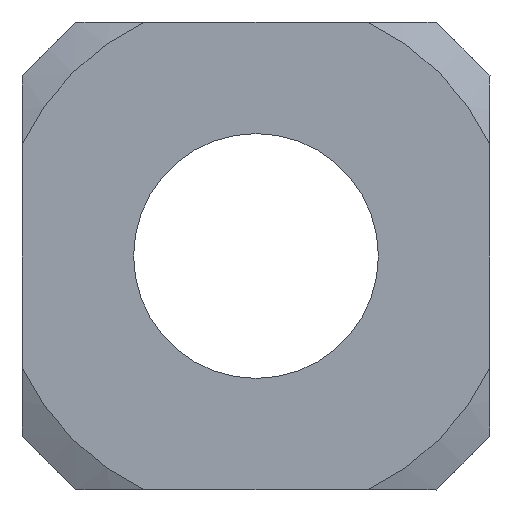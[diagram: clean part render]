
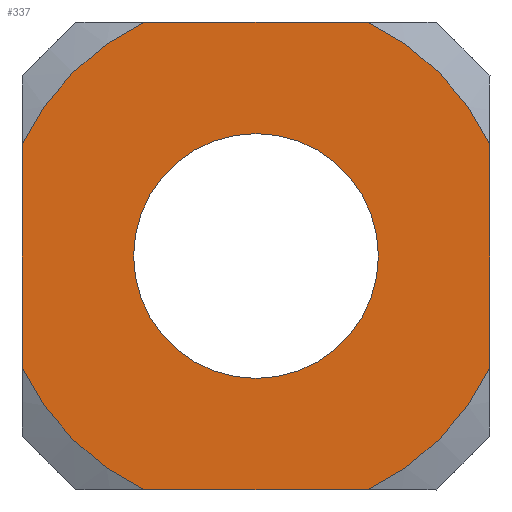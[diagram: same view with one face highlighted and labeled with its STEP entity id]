
A CAD part, front view. The second image highlights one B-rep face of the part: STEP entity #337.
In plain terms, the highlighted planar face has unit normal (0, -1, 0).
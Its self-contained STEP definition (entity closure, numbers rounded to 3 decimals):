
#2 = EDGE_LOOP ( 'NONE', ( #331, #158 ) ) ;
#3 = DIRECTION ( 'NONE',  ( 0., 0., 1. ) ) ;
#11 = DIRECTION ( 'NONE',  ( 0., 0., 1. ) ) ;
#44 = EDGE_CURVE ( 'NONE', #283, #60, #553, .T. ) ;
#47 = VERTEX_POINT ( 'NONE', #701 ) ;
#50 = ORIENTED_EDGE ( 'NONE', *, *, #573, .T. ) ;
#52 = PLANE ( 'NONE',  #505 ) ;
#60 = VERTEX_POINT ( 'NONE', #462 ) ;
#73 = CIRCLE ( 'NONE', #136, 7.2 ) ;
#74 = CARTESIAN_POINT ( 'NONE',  ( -3.097, 0., 6.5 ) ) ;
#75 = DIRECTION ( 'NONE',  ( 0., -1., 0. ) ) ;
#77 = CARTESIAN_POINT ( 'NONE',  ( 6.5, 0., 3.097 ) ) ;
#79 = DIRECTION ( 'NONE',  ( -1., 0., 0. ) ) ;
#81 = EDGE_CURVE ( 'NONE', #528, #240, #73, .T. ) ;
#85 = CARTESIAN_POINT ( 'NONE',  ( 3.097, 0., 6.5 ) ) ;
#98 = FACE_BOUND ( 'NONE', #2, .T. ) ;
#108 = DIRECTION ( 'NONE',  ( 0., -1., 0. ) ) ;
#115 = DIRECTION ( 'NONE',  ( 0., 1., 0. ) ) ;
#136 = AXIS2_PLACEMENT_3D ( 'NONE', #360, #75, #11 ) ;
#139 = CARTESIAN_POINT ( 'NONE',  ( 0., 0., 6.5 ) ) ;
#145 = LINE ( 'NONE', #261, #542 ) ;
#150 = VECTOR ( 'NONE', #255, 1000. ) ;
#158 = ORIENTED_EDGE ( 'NONE', *, *, #665, .T. ) ;
#160 = EDGE_LOOP ( 'NONE', ( #739, #555, #675, #50, #395, #688, #193, #230 ) ) ;
#188 = LINE ( 'NONE', #139, #371 ) ;
#190 = EDGE_CURVE ( 'NONE', #350, #524, #145, .T. ) ;
#193 = ORIENTED_EDGE ( 'NONE', *, *, #496, .T. ) ;
#204 = EDGE_CURVE ( 'NONE', #282, #528, #481, .T. ) ;
#230 = ORIENTED_EDGE ( 'NONE', *, *, #406, .T. ) ;
#231 = VERTEX_POINT ( 'NONE', #85 ) ;
#240 = VERTEX_POINT ( 'NONE', #364 ) ;
#242 = DIRECTION ( 'NONE',  ( 0., -1., 0. ) ) ;
#255 = DIRECTION ( 'NONE',  ( 0., 0., -1. ) ) ;
#261 = CARTESIAN_POINT ( 'NONE',  ( 6.5, 0., 0. ) ) ;
#272 = CARTESIAN_POINT ( 'NONE',  ( 0., 0., 0. ) ) ;
#282 = VERTEX_POINT ( 'NONE', #721 ) ;
#283 = VERTEX_POINT ( 'NONE', #604 ) ;
#285 = CARTESIAN_POINT ( 'NONE',  ( 0., 0., 0. ) ) ;
#318 = CIRCLE ( 'NONE', #340, 7.2 ) ;
#331 = ORIENTED_EDGE ( 'NONE', *, *, #44, .T. ) ;
#335 = CARTESIAN_POINT ( 'NONE',  ( 0., 0., 0. ) ) ;
#337 = ADVANCED_FACE ( 'NONE', ( #393, #98 ), #52, .T. ) ;
#340 = AXIS2_PLACEMENT_3D ( 'NONE', #402, #108, #412 ) ;
#350 = VERTEX_POINT ( 'NONE', #513 ) ;
#358 = DIRECTION ( 'NONE',  ( -1., 0., 0. ) ) ;
#360 = CARTESIAN_POINT ( 'NONE',  ( 0., 0., 0. ) ) ;
#364 = CARTESIAN_POINT ( 'NONE',  ( -3.097, 0., -6.5 ) ) ;
#371 = VECTOR ( 'NONE', #79, 1000. ) ;
#373 = CARTESIAN_POINT ( 'NONE',  ( -6.5, 0., 0. ) ) ;
#375 = CIRCLE ( 'NONE', #509, 7.2 ) ;
#390 = VERTEX_POINT ( 'NONE', #74 ) ;
#393 = FACE_OUTER_BOUND ( 'NONE', #160, .T. ) ;
#395 = ORIENTED_EDGE ( 'NONE', *, *, #190, .T. ) ;
#402 = CARTESIAN_POINT ( 'NONE',  ( 0., 0., 0. ) ) ;
#404 = CARTESIAN_POINT ( 'NONE',  ( 0., 0., 0. ) ) ;
#406 = EDGE_CURVE ( 'NONE', #390, #282, #581, .T. ) ;
#412 = DIRECTION ( 'NONE',  ( 0., 0., 1. ) ) ;
#434 = DIRECTION ( 'NONE',  ( 1., 0., 0. ) ) ;
#453 = CARTESIAN_POINT ( 'NONE',  ( 0., 0., 0. ) ) ;
#462 = CARTESIAN_POINT ( 'NONE',  ( 0., 0., -3.4 ) ) ;
#475 = AXIS2_PLACEMENT_3D ( 'NONE', #285, #585, #3 ) ;
#481 = LINE ( 'NONE', #373, #150 ) ;
#486 = LINE ( 'NONE', #726, #743 ) ;
#492 = AXIS2_PLACEMENT_3D ( 'NONE', #453, #115, #594 ) ;
#496 = EDGE_CURVE ( 'NONE', #231, #390, #188, .T. ) ;
#505 = AXIS2_PLACEMENT_3D ( 'NONE', #335, #733, #613 ) ;
#509 = AXIS2_PLACEMENT_3D ( 'NONE', #272, #670, #566 ) ;
#513 = CARTESIAN_POINT ( 'NONE',  ( 6.5, 0., -3.097 ) ) ;
#524 = VERTEX_POINT ( 'NONE', #77 ) ;
#528 = VERTEX_POINT ( 'NONE', #745 ) ;
#542 = VECTOR ( 'NONE', #548, 1000. ) ;
#543 = AXIS2_PLACEMENT_3D ( 'NONE', #404, #242, #358 ) ;
#548 = DIRECTION ( 'NONE',  ( 0., 0., 1. ) ) ;
#553 = CIRCLE ( 'NONE', #492, 3.4 ) ;
#555 = ORIENTED_EDGE ( 'NONE', *, *, #81, .T. ) ;
#566 = DIRECTION ( 'NONE',  ( 0., 0., 1. ) ) ;
#573 = EDGE_CURVE ( 'NONE', #47, #350, #375, .T. ) ;
#581 = CIRCLE ( 'NONE', #543, 7.2 ) ;
#585 = DIRECTION ( 'NONE',  ( 0., 1., 0. ) ) ;
#594 = DIRECTION ( 'NONE',  ( 0., 0., 1. ) ) ;
#604 = CARTESIAN_POINT ( 'NONE',  ( 0., 0., 3.4 ) ) ;
#613 = DIRECTION ( 'NONE',  ( 0., 0., -1. ) ) ;
#665 = EDGE_CURVE ( 'NONE', #60, #283, #720, .T. ) ;
#670 = DIRECTION ( 'NONE',  ( 0., -1., 0. ) ) ;
#675 = ORIENTED_EDGE ( 'NONE', *, *, #749, .T. ) ;
#688 = ORIENTED_EDGE ( 'NONE', *, *, #734, .T. ) ;
#701 = CARTESIAN_POINT ( 'NONE',  ( 3.097, 0., -6.5 ) ) ;
#720 = CIRCLE ( 'NONE', #475, 3.4 ) ;
#721 = CARTESIAN_POINT ( 'NONE',  ( -6.5, 0., 3.097 ) ) ;
#726 = CARTESIAN_POINT ( 'NONE',  ( 0., 0., -6.5 ) ) ;
#733 = DIRECTION ( 'NONE',  ( 0., -1., 0. ) ) ;
#734 = EDGE_CURVE ( 'NONE', #524, #231, #318, .T. ) ;
#739 = ORIENTED_EDGE ( 'NONE', *, *, #204, .T. ) ;
#743 = VECTOR ( 'NONE', #434, 1000. ) ;
#745 = CARTESIAN_POINT ( 'NONE',  ( -6.5, 0., -3.097 ) ) ;
#749 = EDGE_CURVE ( 'NONE', #240, #47, #486, .T. ) ;
